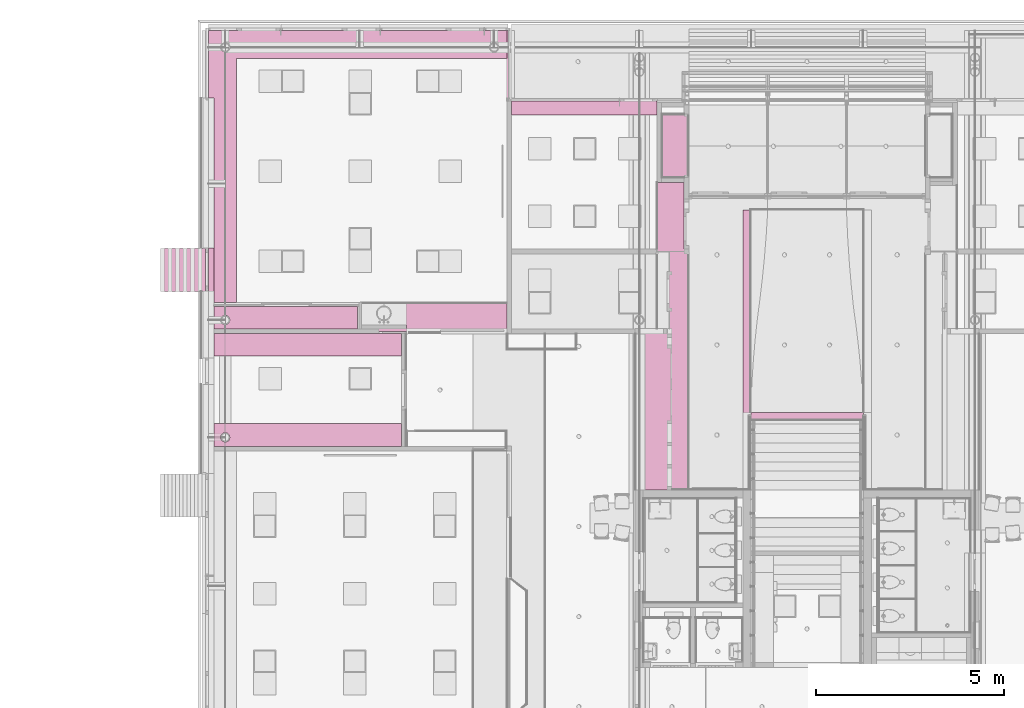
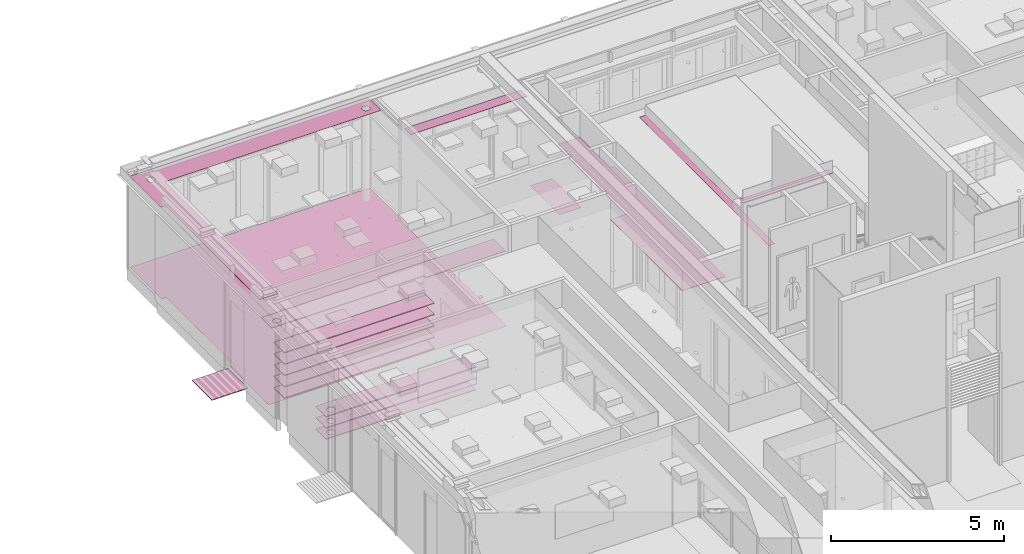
# One storey, part 326 of 347: 18 furnishings.
"""IFC2X3 building model written with IfcOpenShell, lengths in millimetres."""

import ifcopenshell
import ifcopenshell.guid

model = None  # the IFC model being written
_history = None  # IfcOwnerHistory: only IFC2X3 demands one
_inside = {}  # id of a spatial element -> (the spatial element, [elements in it])
_under = {}  # id of a project, library or spatial element -> (it, [spatial elements below it])
_declared = {}  # id of a project -> (the project, [libraries it declares])
_typed = {}  # id of a type object -> (the type object, [elements of that type])
_made_of = {}  # id of a material, layer set ... -> (it, [elements and type objects made of it])


def new_model(schema):
    """Start an empty IFC model of exactly this schema.

    Asked for "IFC4X3", IfcOpenShell would pick the latest addendum, in which some entities
    have other attributes; the version numbers below select the first issue.
    IFC2X3 requires an IfcOwnerHistory on every rooted entity: one is made here for all.
    """
    global model, _history
    if schema == "IFC4X3":
        model = ifcopenshell.file(schema_version=(4, 3, 0, 0))
    else:
        model = ifcopenshell.file(schema=schema)
    _inside.clear()
    _under.clear()
    _declared.clear()
    _typed.clear()
    _made_of.clear()
    _history = None
    if model.schema == "IFC2X3":
        org = make("IfcOrganization", Name="unknown")
        user = make(
            "IfcPersonAndOrganization",
            ThePerson=make("IfcPerson", FamilyName="unknown"),
            TheOrganization=org,
        )
        app = make(
            "IfcApplication",
            ApplicationDeveloper=org,
            Version="unknown",
            ApplicationFullName="unknown",
            ApplicationIdentifier="unknown",
        )
        _history = make(
            "IfcOwnerHistory",
            OwningUser=user,
            OwningApplication=app,
            ChangeAction="ADDED",
            CreationDate=0,
        )
    return model


def make(cls, **values):
    """One entity of the class cls with the attributes given. An attribute that is None is left unset."""
    return model.create_entity(
        cls, **{name: value for name, value in values.items() if value is not None}
    )


def entity(cls, *values):
    """Any entity or typed value of the class cls, its attributes in the order of the schema. None: left unset."""
    e = model.create_entity(cls)
    for i, value in enumerate(values):
        if value is not None:
            e[i] = value
    return e


def rooted(cls, **values):
    """An entity with a GlobalId (a new one), such as an element, a storey or a relation."""
    return make(cls, GlobalId=ifcopenshell.guid.new(), OwnerHistory=_history, **values)


def si_unit(unit_type, name, prefix=None):
    """IfcSIUnit, for example si_unit("LENGTHUNIT", "METRE", prefix="MILLI")."""
    return make("IfcSIUnit", UnitType=unit_type, Prefix=prefix, Name=name)


def converted_unit(unit_type, name, factor, base, dimensions=None, offset=None):
    """IfcConversionBasedUnit, such as the inch: factor (a typed value) times the base unit."""
    return make(
        "IfcConversionBasedUnit"
        if offset is None
        else "IfcConversionBasedUnitWithOffset",
        ConversionOffset=offset,
        Dimensions=None
        if dimensions is None
        else entity("IfcDimensionalExponents", *dimensions),
        UnitType=unit_type,
        Name=name,
        ConversionFactor=make(
            "IfcMeasureWithUnit", ValueComponent=factor, UnitComponent=base
        ),
    )


def derived_unit(unit_type, elements):
    """IfcDerivedUnit: a product of units, each with its exponent."""
    return make(
        "IfcDerivedUnit",
        Elements=[
            make("IfcDerivedUnitElement", Unit=unit, Exponent=power)
            for unit, power in elements
        ],
        UnitType=unit_type,
    )


def money_unit(currency):
    """IfcMonetaryUnit."""
    return make("IfcMonetaryUnit", Currency=currency)


def assignment(units):
    """IfcUnitAssignment: the units of a project."""
    return None if units is None else make("IfcUnitAssignment", Units=units)


def point(xyz):
    """IfcCartesianPoint."""
    return None if xyz is None else make("IfcCartesianPoint", Coordinates=xyz)


def direction(xyz):
    """IfcDirection."""
    return None if xyz is None else make("IfcDirection", DirectionRatios=xyz)


def frame(location, z_axis=None, x_axis=None):
    """IfcAxis2Placement3D, a coordinate frame: its origin and axes. An axis left out is left unset."""
    return make(
        "IfcAxis2Placement3D",
        Location=point(location),
        Axis=direction(z_axis),
        RefDirection=direction(x_axis),
    )


def origin_with_axes():
    """The frame at (0, 0, 0) with the z axis (0, 0, 1) and the x axis (1, 0, 0) written out."""
    return frame((0.0, 0.0, 0.0), z_axis=(0.0, 0.0, 1.0), x_axis=(1.0, 0.0, 0.0))


def place(relative_to, where):
    """IfcLocalPlacement: puts the frame where relative to a parent placement (None: the world)."""
    return make(
        "IfcLocalPlacement", PlacementRelTo=relative_to, RelativePlacement=where
    )


def context(
    kind, dimensions, precision=None, world=None, true_north=None, identifier=None
):
    """IfcGeometricRepresentationContext, for example the 3D "Model" context."""
    return make(
        "IfcGeometricRepresentationContext",
        ContextIdentifier=identifier,
        ContextType=kind,
        CoordinateSpaceDimension=dimensions,
        Precision=precision,
        WorldCoordinateSystem=world,
        TrueNorth=true_north,
    )


def subcontext(parent, identifier, kind, view, scale=None):
    """IfcGeometricRepresentationSubContext, for example "Body" below "Model"."""
    return make(
        "IfcGeometricRepresentationSubContext",
        ContextIdentifier=identifier,
        ContextType=kind,
        ParentContext=parent,
        TargetScale=scale,
        TargetView=view,
    )


def project(units=None, contexts=None):
    """IfcProject with its units and contexts."""
    return rooted(
        "IfcProject",
        Name="project",
        RepresentationContexts=contexts,
        UnitsInContext=assignment(units),
    )


def spatial(cls, under=None, at=None, **own):
    """A site, building, storey or space (cls), placed at a placement, below another one or the project."""
    s = rooted(cls, ObjectPlacement=at, **own)
    if under is not None:
        _under.setdefault(under.id(), (under, []))[1].append(s)
    return s


def faces_of(points, faces, orient=None, outer=None):
    """IfcFace entities. A face is a list of loops; a loop is a list of indices into points, from 0.

    orient and outer hold one flag for each loop. By default every Orientation is true, the
    first loop of a face is its IfcFaceOuterBound and the others are IfcFaceBound.
    """
    made = []
    for i, loops in enumerate(faces):
        bounds = []
        for j, loop in enumerate(loops):
            is_outer = j == 0 if outer is None else outer[i][j]
            bounds.append(
                make(
                    "IfcFaceOuterBound" if is_outer else "IfcFaceBound",
                    Bound=make("IfcPolyLoop", Polygon=[points[k] for k in loop]),
                    Orientation=True if orient is None else orient[i][j],
                )
            )
        made.append(make("IfcFace", Bounds=bounds))
    return made


def faceted_brep(points, faces, orient=None, outer=None, voids=None):
    """IfcFacetedBrep: a solid bounded by flat faces; with voids (closed shells), ...WithVoids."""
    shared = [point(p) for p in points]
    hull = make("IfcClosedShell", CfsFaces=faces_of(shared, faces, orient, outer))
    if voids is None:
        return make("IfcFacetedBrep", Outer=hull)
    return make(
        "IfcFacetedBrepWithVoids",
        Outer=hull,
        Voids=[
            make(cls, CfsFaces=faces_of(shared, fs, o, b)) for cls, fs, o, b in voids
        ],
    )


def shape(context_of_items, identifier, shape_type, items):
    """IfcShapeRepresentation: the items that make up one representation, for example the "Body"."""
    return make(
        "IfcShapeRepresentation",
        ContextOfItems=context_of_items,
        RepresentationIdentifier=identifier,
        RepresentationType=shape_type,
        Items=items,
    )


def material(Name=None, Category=None):
    """IfcMaterial."""
    return make("IfcMaterial", Name=Name, Category=Category)


def made_of(thing, what):
    """Note that an element or type object is made of a material, layer set ...; save() writes the relation."""
    if what is not None:
        _made_of.setdefault(what.id(), (what, []))[1].append(thing)
    return thing


def type_object(cls, material=None, **own):
    """A type object (cls), such as IfcWallType, which elements share."""
    return made_of(rooted(cls, **own), material)


def element(
    cls,
    number,
    at=None,
    inside=None,
    cuts=None,
    type_object=None,
    material=None,
    context=None,
    identifier="Body",
    shape_type=None,
    held_by="IfcProductDefinitionShape",
    body=None,
    shapes=None,
    **own,
):
    """One element of the class cls, such as IfcWall. Its Tag is "e" and its number.

    at: its placement. inside: the storey or other place that contains it. cuts: it is an
    opening in that element (IfcRelVoidsElement). A single representation is given by context,
    identifier, shape_type and body (its items); several are given by shapes. held_by: the class
    of the entity that holds the representations. save() writes the other relations.
    """
    e = rooted(cls, Tag="e%d" % number, ObjectPlacement=at, **own)
    if body is not None:
        shapes = [shape(context, identifier, shape_type, body)]
    if shapes is not None:
        e.Representation = make(held_by, Representations=shapes)
    if inside is not None:
        _inside.setdefault(inside.id(), (inside, []))[1].append(e)
    if cuts is not None:
        rooted(
            "IfcRelVoidsElement", RelatingBuildingElement=cuts, RelatedOpeningElement=e
        )
    if type_object is not None:
        _typed.setdefault(type_object.id(), (type_object, []))[1].append(e)
    return made_of(e, material)


def aggregate(whole, parts):
    """IfcRelAggregates: a whole, such as a stair, and the parts it consists of."""
    return rooted("IfcRelAggregates", RelatingObject=whole, RelatedObjects=parts)


def save(model, path):
    """Write the relations noted so far, then the file.

    IfcRelAggregates (storeys below a building ...), IfcRelContainedInSpatialStructure (elements
    in a storey), IfcRelDefinesByType, IfcRelAssociatesMaterial and IfcRelDeclares: one each for
    every whole, place, type object, material and project.
    """
    for whole, parts in _under.values():
        aggregate(whole, parts)
    for where, things in _inside.values():
        rooted(
            "IfcRelContainedInSpatialStructure",
            RelatedElements=things,
            RelatingStructure=where,
        )
    for kind, things in _typed.values():
        rooted("IfcRelDefinesByType", RelatedObjects=things, RelatingType=kind)
    for what, things in _made_of.values():
        rooted("IfcRelAssociatesMaterial", RelatedObjects=things, RelatingMaterial=what)
    for by, libraries in _declared.values():
        rooted("IfcRelDeclares", RelatingContext=by, RelatedDefinitions=libraries)
    model.write(path)


model = new_model("IFC2X3")

# Units and contexts
model_context = context("Model", 3, precision=0.01, world=origin_with_axes(), true_north=direction((0.0, 1.0)))
plan_context = context("Plan", 3, precision=0.01, world=origin_with_axes(), true_north=direction((0.0, 1.0)))
body_context = subcontext(model_context, "Body", "Model", "MODEL_VIEW")
ifc_project = project(units=[si_unit("LENGTHUNIT", "METRE", prefix="MILLI"), si_unit("AREAUNIT", "SQUARE_METRE"), si_unit("VOLUMEUNIT", "CUBIC_METRE"), converted_unit("PLANEANGLEUNIT", "DEGREE", entity("IfcPlaneAngleMeasure", 0.0174532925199), si_unit("PLANEANGLEUNIT", "RADIAN"), dimensions=[0, 0, 0, 0, 0, 0, 0]), money_unit("EUR"), converted_unit("TIMEUNIT", "Year", entity("IfcTimeMeasure", 31556926.0), si_unit("TIMEUNIT", "SECOND"), dimensions=[0, 0, 1, 0, 0, 0, 0]), si_unit("MASSUNIT", "GRAM", prefix="KILO"), si_unit("THERMODYNAMICTEMPERATUREUNIT", "DEGREE_CELSIUS"), si_unit("LUMINOUSINTENSITYUNIT", "LUMEN"), si_unit("ENERGYUNIT", "JOULE", prefix="MEGA"), derived_unit("THERMALCONDUCTANCEUNIT", [(si_unit("POWERUNIT", "WATT"), 1), (si_unit("LENGTHUNIT", "METRE"), -1), (si_unit("THERMODYNAMICTEMPERATUREUNIT", "KELVIN"), -1)]), derived_unit("SPECIFICHEATCAPACITYUNIT", [(si_unit("ENERGYUNIT", "JOULE"), 1), (si_unit("MASSUNIT", "GRAM", prefix="KILO"), -1), (si_unit("THERMODYNAMICTEMPERATUREUNIT", "KELVIN"), -1)]), derived_unit("MASSDENSITYUNIT", [(si_unit("MASSUNIT", "GRAM", prefix="KILO"), 1), (si_unit("VOLUMEUNIT", "CUBIC_METRE"), -1)])], contexts=[model_context, plan_context])

# Site, building, storey
site_placement = place(None, origin_with_axes())
site = spatial("IfcSite", under=ifc_project, at=site_placement, Name="Site", CompositionType="ELEMENT")
building_placement = place(site_placement, origin_with_axes())
building = spatial("IfcBuilding", under=site, at=building_placement, Name="Naam gebouw", CompositionType="ELEMENT")
storey_placement = place(building_placement, origin_with_axes())
storey = spatial("IfcBuildingStorey", under=building, at=storey_placement, Name="begane grond", CompositionType="ELEMENT", Elevation=0.0)

# Furnishings
ifc_material_1 = material(Name="ALG - LICHTE SCHEIDINGSWAND")
furniture_type_1 = type_object("IfcFurnitureType", Name="44 koof plaf 50", AssemblyPlace="NOTDEFINED")
furnishing_1_placement = place(storey_placement, frame((38575.0, 36862.4999592, 3500.0), z_axis=(0.0, 0.0, 1.0), x_axis=(1.0, 0.0, 0.0)))
element("IfcFurnishingElement", 1, at=furnishing_1_placement, inside=storey, type_object=furniture_type_1, material=ifc_material_1, Name="72_75 vaste inrichting", ObjectType="SHELF", context=body_context, shape_type="Brep", body=[
    faceted_brep([(0.0, 0.0, 12.0), (0.0, 0.0, 0.0), (0.0, -209.99995569, 0.0), (0.0, -209.99995569, 12.0), (3000.0, 8.94070595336e-05, 12.0), (3000.0, 8.94070595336e-05, 0.0), (3000.0, -209.99995569, 0.0), (3000.0, -209.99995569, 12.0)], [[[0, 1, 2, 3]], [[4, 5, 1, 0]], [[2, 1, 5, 6]], [[3, 2, 6, 7]], [[4, 0, 3, 7]], [[7, 6, 5, 4]]]),
])
furnishing_2_placement = place(storey_placement, frame((24125.0, 45210.0068337, 3200.0), z_axis=(0.0, 0.0, 1.0), x_axis=(1.0, 0.0, 0.0)))
element("IfcFurnishingElement", 2, at=furnishing_2_placement, inside=storey, type_object=furniture_type_1, material=ifc_material_1, Name="72_75 vaste inrichting", ObjectType="SHELF", context=body_context, shape_type="Brep", body=[
    faceted_brep([(150.000026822, -5422.50683374, 0.0), (150.000008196, 0.0, 0.0), (150.000008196, 24.9931662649, 0.0), (0.0, 24.9931662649, 0.0), (0.0, 1826.99313354, 0.0), (7950.0, 1826.99313354, 0.0), (7950.0, 1076.99311789, 0.0), (750.000015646, 1076.99311789, 0.0), (750.000015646, -5422.50683374, 0.0), (7708.07889873, 1300.77151549, 0.0), (7722.6434441, 1323.95085666, 0.0), (7731.68493726, 1349.78995959, 0.0), (7734.75, 1376.99314376, 0.0), (7731.68493726, 1404.19632794, 0.0), (7722.6434441, 1430.03543087, 0.0), (7708.07889873, 1453.21477204, 0.0), (7688.72162828, 1472.5720425, 0.0), (7665.54228711, 1487.13658787, 0.0), (7639.70318418, 1496.17808103, 0.0), (7612.5, 1499.24314376, 0.0), (7585.29681582, 1496.17808103, 0.0), (7559.45771289, 1487.13658787, 0.0), (7536.27837172, 1472.5720425, 0.0), (7516.92110127, 1453.21477204, 0.0), (7502.3565559, 1430.03543087, 0.0), (7493.31506274, 1404.19632794, 0.0), (7490.25, 1376.99314376, 0.0), (7493.31506274, 1349.78995959, 0.0), (7502.3565559, 1323.95085666, 0.0), (7516.92110127, 1300.77151549, 0.0), (7536.27837172, 1281.41424503, 0.0), (7559.45771289, 1266.84969966, 0.0), (7585.29681582, 1257.8082065, 0.0), (7612.5, 1254.74314376, 0.0), (7639.70318418, 1257.8082065, 0.0), (7665.54228711, 1266.84969966, 0.0), (7688.72162828, 1281.41424503, 0.0), (545.578898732, 1300.77151549, 0.0), (560.143444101, 1323.95085666, 0.0), (569.184937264, 1349.78995959, 0.0), (572.25, 1376.99314376, 0.0), (569.184937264, 1404.19632794, 0.0), (560.143444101, 1430.03543087, 0.0), (545.578898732, 1453.21477204, 0.0), (526.221628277, 1472.5720425, 0.0), (503.042287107, 1487.13658787, 0.0), (477.203184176, 1496.17808103, 0.0), (450.0, 1499.24314376, 0.0), (422.796815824, 1496.17808103, 0.0), (396.957712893, 1487.13658787, 0.0), (373.778371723, 1472.5720425, 0.0), (354.421101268, 1453.21477204, 0.0), (339.856555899, 1430.03543087, 0.0), (330.815062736, 1404.19632794, 0.0), (327.75, 1376.99314376, 0.0), (330.815062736, 1349.78995959, 0.0), (339.856555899, 1323.95085666, 0.0), (354.421101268, 1300.77151549, 0.0), (373.778371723, 1281.41424503, 0.0), (396.957712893, 1266.84969966, 0.0), (422.796815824, 1257.8082065, 0.0), (450.0, 1254.74314376, 0.0), (477.203184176, 1257.8082065, 0.0), (503.042287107, 1266.84969966, 0.0), (526.221628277, 1281.41424503, 0.0), (150.000026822, -5422.50683374, 12.0), (150.000008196, 0.0, 12.0), (150.000008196, 24.9931662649, 12.0), (7.50027595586e-07, 24.9931662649, 12.0), (0.0, 1826.99313354, 12.0), (7950.0, 1826.99313354, 12.0), (7950.0, 1076.99311789, 12.0), (750.000015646, 1076.99311789, 12.0), (750.000015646, -5422.50683374, 12.0), (7708.07889873, 1300.77151549, 12.0), (7722.6434441, 1323.95085666, 12.0), (7731.68493726, 1349.78995959, 12.0), (7734.75, 1376.99314376, 12.0), (7731.68493726, 1404.19632794, 12.0), (7722.6434441, 1430.03543087, 12.0), (7708.07889873, 1453.21477204, 12.0), (7688.72162828, 1472.5720425, 12.0), (7665.54228711, 1487.13658787, 12.0), (7639.70318418, 1496.17808103, 12.0), (7612.5, 1499.24314376, 12.0), (7585.29681582, 1496.17808103, 12.0), (7559.45771289, 1487.13658787, 12.0), (7536.27837172, 1472.5720425, 12.0), (7516.92110127, 1453.21477204, 12.0), (7502.3565559, 1430.03543087, 12.0), (7493.31506274, 1404.19632794, 12.0), (7490.25, 1376.99314376, 12.0), (7493.31506274, 1349.78995959, 12.0), (7502.3565559, 1323.95085666, 12.0), (7516.92110127, 1300.77151549, 12.0), (7536.27837172, 1281.41424503, 12.0), (7559.45771289, 1266.84969966, 12.0), (7585.29681582, 1257.8082065, 12.0), (7612.5, 1254.74314376, 12.0), (7639.70318418, 1257.8082065, 12.0), (7665.54228711, 1266.84969966, 12.0), (7688.72162828, 1281.41424503, 12.0), (545.578898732, 1300.77151549, 12.0), (560.143444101, 1323.95085666, 12.0), (569.184937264, 1349.78995959, 12.0), (572.25, 1376.99314376, 12.0), (569.184937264, 1404.19632794, 12.0), (560.143444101, 1430.03543087, 12.0), (545.578898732, 1453.21477204, 12.0), (526.221628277, 1472.5720425, 12.0), (503.042287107, 1487.13658787, 12.0), (477.203184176, 1496.17808103, 12.0), (450.0, 1499.24314376, 12.0), (422.796815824, 1496.17808103, 12.0), (396.957712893, 1487.13658787, 12.0), (373.778371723, 1472.5720425, 12.0), (354.421101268, 1453.21477204, 12.0), (339.856555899, 1430.03543087, 12.0), (330.815062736, 1404.19632794, 12.0), (327.75, 1376.99314376, 12.0), (330.815062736, 1349.78995959, 12.0), (339.856555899, 1323.95085666, 12.0), (354.421101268, 1300.77151549, 12.0), (373.778371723, 1281.41424503, 12.0), (396.957712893, 1266.84969966, 12.0), (422.796815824, 1257.8082065, 12.0), (450.0, 1254.74314376, 12.0), (477.203184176, 1257.8082065, 12.0), (503.042287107, 1266.84969966, 12.0), (526.221628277, 1281.41424503, 12.0)], [[[0, 1, 2, 3, 4, 5, 6, 7, 8], [9, 10, 11, 12, 13, 14, 15, 16, 17, 18, 19, 20, 21, 22, 23, 24, 25, 26, 27, 28, 29, 30, 31, 32, 33, 34, 35, 36], [37, 38, 39, 40, 41, 42, 43, 44, 45, 46, 47, 48, 49, 50, 51, 52, 53, 54, 55, 56, 57, 58, 59, 60, 61, 62, 63, 64]], [[0, 65, 66, 1]], [[2, 1, 66, 67]], [[3, 2, 67, 68]], [[69, 4, 3, 68]], [[70, 5, 4, 69]], [[71, 6, 5, 70]], [[72, 7, 6, 71]], [[73, 8, 7, 72]], [[65, 0, 8, 73]], [[9, 74, 75, 10]], [[10, 75, 76, 11]], [[11, 76, 77, 12]], [[12, 77, 78, 13]], [[13, 78, 79, 14]], [[14, 79, 80, 15]], [[15, 80, 81, 16]], [[16, 81, 82, 17]], [[17, 82, 83, 18]], [[18, 83, 84, 19]], [[19, 84, 85, 20]], [[20, 85, 86, 21]], [[21, 86, 87, 22]], [[22, 87, 88, 23]], [[23, 88, 89, 24]], [[24, 89, 90, 25]], [[25, 90, 91, 26]], [[26, 91, 92, 27]], [[27, 92, 93, 28]], [[28, 93, 94, 29]], [[29, 94, 95, 30]], [[30, 95, 96, 31]], [[31, 96, 97, 32]], [[32, 97, 98, 33]], [[33, 98, 99, 34]], [[34, 99, 100, 35]], [[35, 100, 101, 36]], [[36, 101, 74, 9]], [[37, 102, 103, 38]], [[38, 103, 104, 39]], [[39, 104, 105, 40]], [[40, 105, 106, 41]], [[41, 106, 107, 42]], [[42, 107, 108, 43]], [[43, 108, 109, 44]], [[44, 109, 110, 45]], [[45, 110, 111, 46]], [[46, 111, 112, 47]], [[47, 112, 113, 48]], [[48, 113, 114, 49]], [[49, 114, 115, 50]], [[50, 115, 116, 51]], [[51, 116, 117, 52]], [[52, 117, 118, 53]], [[53, 118, 119, 54]], [[54, 119, 120, 55]], [[55, 120, 121, 56]], [[56, 121, 122, 57]], [[57, 122, 123, 58]], [[58, 123, 124, 59]], [[59, 124, 125, 60]], [[60, 125, 126, 61]], [[61, 126, 127, 62]], [[62, 127, 128, 63]], [[63, 128, 129, 64]], [[64, 129, 102, 37]], [[69, 68, 67, 66, 65, 73, 72, 71, 70], [80, 79, 78, 77, 76, 75, 74, 101, 100, 99, 98, 97, 96, 95, 94, 93, 92, 91, 90, 89, 88, 87, 86, 85, 84, 83, 82, 81], [108, 107, 106, 105, 104, 103, 102, 129, 128, 127, 126, 125, 124, 123, 122, 121, 120, 119, 118, 117, 116, 115, 114, 113, 112, 111, 110, 109]]]),
])
furnishing_3_placement = place(storey_placement, frame((38366.0000534, 34800.0, 3190.0), z_axis=(0.0, 0.0, 1.0), x_axis=(1.0, 0.0, 0.0)))
element("IfcFurnishingElement", 3, at=furnishing_3_placement, inside=storey, type_object=furniture_type_1, material=ifc_material_1, Name="72_75 vaste inrichting", ObjectType="SHELF", context=body_context, shape_type="Brep", body=[
    faceted_brep([(0.0, 0.0, 12.0), (0.0, 0.0, 0.0), (208.999996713, 0.0, 0.0), (208.999996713, 0.0, 12.0), (0.0, 7462.50004224, 12.0), (0.0, 7462.50004224, 0.0), (208.999996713, 7462.50004224, 0.0), (208.999996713, 7462.50004224, 12.0)], [[[0, 1, 2, 3]], [[4, 5, 1, 0]], [[2, 1, 5, 6]], [[3, 2, 6, 7]], [[4, 0, 3, 7]], [[7, 6, 5, 4]]]),
])
furnishing_4_placement = place(storey_placement, frame((35495.0, 34800.0, 2600.0), z_axis=(0.0, 0.0, 1.0), x_axis=(1.0, 0.0, 0.0)))
element("IfcFurnishingElement", 4, at=furnishing_4_placement, inside=storey, type_object=furniture_type_1, material=ifc_material_1, Name="72_75 vaste inrichting", ObjectType="SHELF", context=body_context, shape_type="Brep", body=[
    faceted_brep([(0.0, 0.0, 12.0), (0.0, 0.0, 0.0), (1429.99997328, 0.0, 0.0), (1429.99997328, 0.0, 12.0), (0.0, 4162.49958894, 12.0), (0.0, 4162.49958894, 0.0), (579.999557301, 4162.4994669, 0.0), (580.000045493, 8190.5, 0.0), (1305.00004134, 8190.5, 0.0), (1305.00004134, 6412.4999506, 0.0), (1429.99997328, 6412.4999506, 0.0), (1429.99997328, 6412.4999506, 12.0), (1305.00004134, 6412.4999506, 12.0), (1305.00004134, 8190.5, 12.0), (580.000045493, 8190.5, 12.0), (579.999557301, 4162.4994669, 12.0)], [[[0, 1, 2, 3]], [[4, 5, 1, 0]], [[2, 1, 5, 6, 7, 8, 9, 10]], [[3, 2, 10, 11]], [[4, 0, 3, 11, 12, 13, 14, 15]], [[15, 6, 5, 4]], [[14, 7, 6, 15]], [[13, 8, 7, 14]], [[12, 9, 8, 13]], [[11, 10, 9, 12]]]),
])
furnishing_5_placement = place(storey_placement, frame((32200.0032564, 44791.0, 3200.0), z_axis=(0.0, 0.0, 1.0), x_axis=(1.0, 0.0, 0.0)))
element("IfcFurnishingElement", 5, at=furnishing_5_placement, inside=storey, type_object=furniture_type_1, material=ifc_material_1, Name="72_75 vaste inrichting", ObjectType="SHELF", context=body_context, shape_type="Brep", body=[
    faceted_brep([(3874.99674359, 0.0, 12.0), (0.0, 0.0, 12.0), (0.0, 0.0, 0.0), (3874.99674359, 0.0, 0.0), (3874.99674359, 362.0, 12.0), (0.0, 362.0, 12.0), (0.0, 362.0, 0.0), (3874.99674359, 362.0, 0.0)], [[[0, 1, 2, 3]], [[4, 5, 1, 0]], [[1, 5, 6, 2]], [[7, 3, 2, 6]], [[4, 0, 3, 7]], [[5, 4, 7, 6]]]),
])
furnishing_6_placement = place(storey_placement, frame((28200.0, 39187.5, 2600.0), z_axis=(0.0, 0.0, 1.0), x_axis=(1.0, 0.0, 0.0)))
element("IfcFurnishingElement", 6, at=furnishing_6_placement, inside=storey, type_object=furniture_type_1, material=ifc_material_1, Name="72_75 vaste inrichting", ObjectType="SHELF", context=body_context, shape_type="Brep", body=[
    faceted_brep([(0.0, 0.0, 12.0), (0.0, 0.0, 0.0), (1200.0, 0.0, 0.0), (1200.0, 0.0, 12.0), (0.0, 600.0, 12.0), (0.0, 600.0, 0.0), (3875.0, 600.0, 0.0), (3875.0, -100.0, 0.0), (1200.0, -100.0, 0.0), (1200.0, -100.0, 12.0), (3875.0, -100.0, 12.0), (3875.0, 600.0, 12.0)], [[[0, 1, 2, 3]], [[4, 5, 1, 0]], [[2, 1, 5, 6, 7, 8]], [[3, 2, 8, 9]], [[4, 0, 3, 9, 10, 11]], [[11, 6, 5, 4]], [[10, 7, 6, 11]], [[9, 8, 7, 10]]]),
])
furnishing_7_placement = place(storey_placement, frame((24275.0000082, 39087.5, 2622.0), z_axis=(0.0, 0.0, 1.0), x_axis=(1.0, 0.0, 0.0)))
element("IfcFurnishingElement", 7, at=furnishing_7_placement, inside=storey, type_object=furniture_type_1, material=ifc_material_1, Name="72_77 vaste inrichting", ObjectType="SHELF", context=body_context, shape_type="Brep", body=[
    faceted_brep([(3824.9999918, 600.0, 0.0), (3824.9999918, 0.0, 0.0), (0.0, 0.0, 0.0), (0.0, 600.0, 0.0), (395.578890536, 161.278371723, 0.0), (410.143435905, 184.457712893, 0.0), (419.184929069, 210.296815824, 0.0), (422.249991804, 237.5, 0.0), (419.184929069, 264.703184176, 0.0), (410.143435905, 290.542287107, 0.0), (395.578890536, 313.721628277, 0.0), (376.221620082, 333.078898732, 0.0), (353.042278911, 347.643444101, 0.0), (327.20317598, 356.684937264, 0.0), (299.999991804, 359.75, 0.0), (272.796807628, 356.684937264, 0.0), (246.957704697, 347.643444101, 0.0), (223.778363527, 333.078898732, 0.0), (204.421093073, 313.721628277, 0.0), (189.856547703, 290.542287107, 0.0), (180.81505454, 264.703184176, 0.0), (177.749991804, 237.5, 0.0), (180.81505454, 210.296815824, 0.0), (189.856547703, 184.457712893, 0.0), (204.421093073, 161.278371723, 0.0), (223.778363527, 141.921101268, 0.0), (246.957704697, 127.356555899, 0.0), (272.796807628, 118.315062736, 0.0), (299.999991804, 115.25, 0.0), (327.20317598, 118.315062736, 0.0), (353.042278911, 127.356555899, 0.0), (376.221620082, 141.921101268, 0.0), (3824.9999918, 600.0, 12.0), (3824.9999918, 0.0, 12.0), (0.0, 0.0, 12.0), (0.0, 600.0, 12.0), (395.578890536, 161.278371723, 12.0), (410.143435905, 184.457712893, 12.0), (419.184929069, 210.296815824, 12.0), (422.249991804, 237.5, 12.0), (419.184929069, 264.703184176, 12.0), (410.143435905, 290.542287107, 12.0), (395.578890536, 313.721628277, 12.0), (376.221620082, 333.078898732, 12.0), (353.042278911, 347.643444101, 12.0), (327.20317598, 356.684937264, 12.0), (299.999991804, 359.75, 12.0), (272.796807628, 356.684937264, 12.0), (246.957704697, 347.643444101, 12.0), (223.778363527, 333.078898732, 12.0), (204.421093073, 313.721628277, 12.0), (189.856547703, 290.542287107, 12.0), (180.81505454, 264.703184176, 12.0), (177.749991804, 237.5, 12.0), (180.81505454, 210.296815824, 12.0), (189.856547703, 184.457712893, 12.0), (204.421093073, 161.278371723, 12.0), (223.778363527, 141.921101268, 12.0), (246.957704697, 127.356555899, 12.0), (272.796807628, 118.315062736, 12.0), (299.999991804, 115.25, 12.0), (327.20317598, 118.315062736, 12.0), (353.042278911, 127.356555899, 12.0), (376.221620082, 141.921101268, 12.0)], [[[0, 1, 2, 3], [4, 5, 6, 7, 8, 9, 10, 11, 12, 13, 14, 15, 16, 17, 18, 19, 20, 21, 22, 23, 24, 25, 26, 27, 28, 29, 30, 31]], [[32, 33, 1, 0]], [[33, 34, 2, 1]], [[34, 35, 3, 2]], [[35, 32, 0, 3]], [[4, 36, 37, 5]], [[5, 37, 38, 6]], [[6, 38, 39, 7]], [[7, 39, 40, 8]], [[8, 40, 41, 9]], [[9, 41, 42, 10]], [[10, 42, 43, 11]], [[11, 43, 44, 12]], [[12, 44, 45, 13]], [[13, 45, 46, 14]], [[14, 46, 47, 15]], [[15, 47, 48, 16]], [[16, 48, 49, 17]], [[17, 49, 50, 18]], [[18, 50, 51, 19]], [[19, 51, 52, 20]], [[20, 52, 53, 21]], [[21, 53, 54, 22]], [[22, 54, 55, 23]], [[23, 55, 56, 24]], [[24, 56, 57, 25]], [[25, 57, 58, 26]], [[26, 58, 59, 27]], [[27, 59, 60, 28]], [[28, 60, 61, 29]], [[29, 61, 62, 30]], [[30, 62, 63, 31]], [[31, 63, 36, 4]], [[32, 35, 34, 33], [42, 41, 40, 39, 38, 37, 36, 63, 62, 61, 60, 59, 58, 57, 56, 55, 54, 53, 52, 51, 50, 49, 48, 47, 46, 45, 44, 43]]]),
])
ifc_material_2 = material(Name="Hout - Spaanplaat")
furniture_type_2 = type_object("IfcFurnitureType", Name="Hout - Spaanplaat 20", AssemblyPlace="NOTDEFINED")
for number, where, z_axis, x_axis, name in (
    (8, (24275.0, 38362.5, 2200.0), (0.0, 0.0, 1.0), (1.0, 0.0, 0.0), "72_72 vaste inrichting"),
    (9, (24275.0, 38362.5, 1400.0), (0.0, 0.0, 1.0), (1.0, 0.0, 0.0), "72_72 vaste inrichting"),
    (10, (24275.0, 38362.5, 600.0), (0.0, 0.0, 1.0), (1.0, 0.0, 0.0), "72_72 vaste inrichting"),
):
    element("IfcFurnishingElement", number, at=place(storey_placement, frame(where, z_axis=z_axis, x_axis=x_axis)), inside=storey, type_object=furniture_type_2, material=ifc_material_2, Name=name, ObjectType="SHELF", context=body_context, shape_type="Brep", body=[
        faceted_brep([(0.0, 0.0, 0.0), (0.0, 0.0, -20.0), (5000.0, 0.0, -20.0), (5000.0, 0.0, 0.0), (0.0, 600.0, 0.0), (0.0, 600.0, -20.0), (5000.0, 600.0, -20.0), (5000.0, 600.0, 0.0)], [[[0, 1, 2, 3]], [[4, 5, 1, 0]], [[2, 1, 5, 6]], [[3, 2, 6, 7]], [[4, 0, 3, 7]], [[7, 6, 5, 4]]]),
    ])
furnishing_8_placement = place(storey_placement, frame((24275.0, 35962.5, 1000.0), z_axis=(0.0, 0.0, 1.0), x_axis=(1.0, 0.0, 0.0)))
element("IfcFurnishingElement", 11, at=furnishing_8_placement, inside=storey, type_object=furniture_type_2, material=ifc_material_2, Name="72_73 vaste inrichting", ObjectType="SHELF", context=body_context, shape_type="Brep", body=[
    faceted_brep([(5000.0, 600.0, -20.0), (5000.0, 0.0, -20.0), (0.0, 0.0, -20.0), (0.0, 600.0, -20.0), (395.578898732, 161.278371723, -20.0), (410.143444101, 184.457712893, -20.0), (419.184937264, 210.296815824, -20.0), (422.25, 237.5, -20.0), (419.184937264, 264.703184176, -20.0), (410.143444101, 290.542287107, -20.0), (395.578898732, 313.721628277, -20.0), (376.221628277, 333.078898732, -20.0), (353.042287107, 347.643444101, -20.0), (327.203184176, 356.684937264, -20.0), (300.0, 359.75, -20.0), (272.796815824, 356.684937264, -20.0), (246.957712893, 347.643444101, -20.0), (223.778371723, 333.078898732, -20.0), (204.421101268, 313.721628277, -20.0), (189.856555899, 290.542287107, -20.0), (180.815062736, 264.703184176, -20.0), (177.75, 237.5, -20.0), (180.815062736, 210.296815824, -20.0), (189.856555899, 184.457712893, -20.0), (204.421101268, 161.278371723, -20.0), (223.778371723, 141.921101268, -20.0), (246.957712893, 127.356555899, -20.0), (272.796815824, 118.315062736, -20.0), (300.0, 115.25, -20.0), (327.203184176, 118.315062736, -20.0), (353.042287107, 127.356555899, -20.0), (376.221628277, 141.921101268, -20.0), (5000.0, 600.0, 0.0), (5000.0, 0.0, 0.0), (0.0, 0.0, 0.0), (0.0, 600.0, 0.0), (395.578898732, 161.278371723, 0.0), (410.143444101, 184.457712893, 0.0), (419.184937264, 210.296815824, 0.0), (422.25, 237.5, 0.0), (419.184937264, 264.703184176, 0.0), (410.143444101, 290.542287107, 0.0), (395.578898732, 313.721628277, 0.0), (376.221628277, 333.078898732, 0.0), (353.042287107, 347.643444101, 0.0), (327.203184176, 356.684937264, 0.0), (300.0, 359.75, 0.0), (272.796815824, 356.684937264, 0.0), (246.957712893, 347.643444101, 0.0), (223.778371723, 333.078898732, 0.0), (204.421101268, 313.721628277, 0.0), (189.856555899, 290.542287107, 0.0), (180.815062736, 264.703184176, 0.0), (177.75, 237.5, 0.0), (180.815062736, 210.296815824, 0.0), (189.856555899, 184.457712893, 0.0), (204.421101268, 161.278371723, 0.0), (223.778371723, 141.921101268, 0.0), (246.957712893, 127.356555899, 0.0), (272.796815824, 118.315062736, 0.0), (300.0, 115.25, 0.0), (327.203184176, 118.315062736, 0.0), (353.042287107, 127.356555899, 0.0), (376.221628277, 141.921101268, 0.0)], [[[0, 1, 2, 3], [4, 5, 6, 7, 8, 9, 10, 11, 12, 13, 14, 15, 16, 17, 18, 19, 20, 21, 22, 23, 24, 25, 26, 27, 28, 29, 30, 31]], [[32, 33, 1, 0]], [[33, 34, 2, 1]], [[34, 35, 3, 2]], [[35, 32, 0, 3]], [[4, 36, 37, 5]], [[5, 37, 38, 6]], [[6, 38, 39, 7]], [[7, 39, 40, 8]], [[8, 40, 41, 9]], [[9, 41, 42, 10]], [[10, 42, 43, 11]], [[11, 43, 44, 12]], [[12, 44, 45, 13]], [[13, 45, 46, 14]], [[14, 46, 47, 15]], [[15, 47, 48, 16]], [[16, 48, 49, 17]], [[17, 49, 50, 18]], [[18, 50, 51, 19]], [[19, 51, 52, 20]], [[20, 52, 53, 21]], [[21, 53, 54, 22]], [[22, 54, 55, 23]], [[23, 55, 56, 24]], [[24, 56, 57, 25]], [[25, 57, 58, 26]], [[26, 58, 59, 27]], [[27, 59, 60, 28]], [[28, 60, 61, 29]], [[29, 61, 62, 30]], [[30, 62, 63, 31]], [[31, 63, 36, 4]], [[32, 35, 34, 33], [42, 41, 40, 39, 38, 37, 36, 63, 62, 61, 60, 59, 58, 57, 56, 55, 54, 53, 52, 51, 50, 49, 48, 47, 46, 45, 44, 43]]]),
])
furnishing_9_placement = place(storey_placement, frame((24275.0, 35962.5, 1400.0), z_axis=(0.0, 0.0, 1.0), x_axis=(1.0, 0.0, 0.0)))
element("IfcFurnishingElement", 12, at=furnishing_9_placement, inside=storey, type_object=furniture_type_2, material=ifc_material_2, Name="72_73 vaste inrichting", ObjectType="SHELF", context=body_context, shape_type="Brep", body=[
    faceted_brep([(5000.0, 600.0, -20.0), (5000.0, 0.0, -20.0), (0.0, 0.0, -20.0), (0.0, 600.0, -20.0), (395.578898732, 161.278371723, -20.0), (410.143444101, 184.457712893, -20.0), (419.184937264, 210.296815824, -20.0), (422.25, 237.5, -20.0), (419.184937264, 264.703184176, -20.0), (410.143444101, 290.542287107, -20.0), (395.578898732, 313.721628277, -20.0), (376.221628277, 333.078898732, -20.0), (353.042287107, 347.643444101, -20.0), (327.203184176, 356.684937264, -20.0), (300.0, 359.75, -20.0), (272.796815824, 356.684937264, -20.0), (246.957712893, 347.643444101, -20.0), (223.778371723, 333.078898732, -20.0), (204.421101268, 313.721628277, -20.0), (189.856555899, 290.542287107, -20.0), (180.815062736, 264.703184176, -20.0), (177.75, 237.5, -20.0), (180.815062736, 210.296815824, -20.0), (189.856555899, 184.457712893, -20.0), (204.421101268, 161.278371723, -20.0), (223.778371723, 141.921101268, -20.0), (246.957712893, 127.356555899, -20.0), (272.796815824, 118.315062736, -20.0), (300.0, 115.25, -20.0), (327.203184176, 118.315062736, -20.0), (353.042287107, 127.356555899, -20.0), (376.221628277, 141.921101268, -20.0), (5000.0, 600.0, 0.0), (5000.0, 0.0, 0.0), (0.0, 0.0, 0.0), (0.0, 600.0, 0.0), (395.578898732, 161.278371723, 0.0), (410.143444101, 184.457712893, 0.0), (419.184937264, 210.296815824, 0.0), (422.25, 237.5, 0.0), (419.184937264, 264.703184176, 0.0), (410.143444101, 290.542287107, 0.0), (395.578898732, 313.721628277, 0.0), (376.221628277, 333.078898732, 0.0), (353.042287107, 347.643444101, 0.0), (327.203184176, 356.684937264, 0.0), (300.0, 359.75, 0.0), (272.796815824, 356.684937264, 0.0), (246.957712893, 347.643444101, 0.0), (223.778371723, 333.078898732, 0.0), (204.421101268, 313.721628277, 0.0), (189.856555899, 290.542287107, 0.0), (180.815062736, 264.703184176, 0.0), (177.75, 237.5, 0.0), (180.815062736, 210.296815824, 0.0), (189.856555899, 184.457712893, 0.0), (204.421101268, 161.278371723, 0.0), (223.778371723, 141.921101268, 0.0), (246.957712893, 127.356555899, 0.0), (272.796815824, 118.315062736, 0.0), (300.0, 115.25, 0.0), (327.203184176, 118.315062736, 0.0), (353.042287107, 127.356555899, 0.0), (376.221628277, 141.921101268, 0.0)], [[[0, 1, 2, 3], [4, 5, 6, 7, 8, 9, 10, 11, 12, 13, 14, 15, 16, 17, 18, 19, 20, 21, 22, 23, 24, 25, 26, 27, 28, 29, 30, 31]], [[32, 33, 1, 0]], [[33, 34, 2, 1]], [[34, 35, 3, 2]], [[35, 32, 0, 3]], [[4, 36, 37, 5]], [[5, 37, 38, 6]], [[6, 38, 39, 7]], [[7, 39, 40, 8]], [[8, 40, 41, 9]], [[9, 41, 42, 10]], [[10, 42, 43, 11]], [[11, 43, 44, 12]], [[12, 44, 45, 13]], [[13, 45, 46, 14]], [[14, 46, 47, 15]], [[15, 47, 48, 16]], [[16, 48, 49, 17]], [[17, 49, 50, 18]], [[18, 50, 51, 19]], [[19, 51, 52, 20]], [[20, 52, 53, 21]], [[21, 53, 54, 22]], [[22, 54, 55, 23]], [[23, 55, 56, 24]], [[24, 56, 57, 25]], [[25, 57, 58, 26]], [[26, 58, 59, 27]], [[27, 59, 60, 28]], [[28, 60, 61, 29]], [[29, 61, 62, 30]], [[30, 62, 63, 31]], [[31, 63, 36, 4]], [[32, 35, 34, 33], [42, 41, 40, 39, 38, 37, 36, 63, 62, 61, 60, 59, 58, 57, 56, 55, 54, 53, 52, 51, 50, 49, 48, 47, 46, 45, 44, 43]]]),
])
for number, where, z_axis, x_axis, name in (
    (13, (24275.0, 38362.5, 1800.0), (0.0, 0.0, 1.0), (1.0, 0.0, 0.0), "72_72 vaste inrichting"),
    (14, (24275.0, 38362.5, 1000.0), (0.0, 0.0, 1.0), (1.0, 0.0, 0.0), "72_72 vaste inrichting"),
):
    element("IfcFurnishingElement", number, at=place(storey_placement, frame(where, z_axis=z_axis, x_axis=x_axis)), inside=storey, type_object=furniture_type_2, material=ifc_material_2, Name=name, ObjectType="SHELF", context=body_context, shape_type="Brep", body=[
        faceted_brep([(0.0, 0.0, 0.0), (0.0, 0.0, -20.0), (5000.0, 0.0, -20.0), (5000.0, 0.0, 0.0), (0.0, 600.0, 0.0), (0.0, 600.0, -20.0), (5000.0, 600.0, -20.0), (5000.0, 600.0, 0.0)], [[[0, 1, 2, 3]], [[4, 5, 1, 0]], [[2, 1, 5, 6]], [[3, 2, 6, 7]], [[4, 0, 3, 7]], [[7, 6, 5, 4]]]),
    ])
furnishing_10_placement = place(storey_placement, frame((24275.0, 35962.5, 600.0), z_axis=(0.0, 0.0, 1.0), x_axis=(1.0, 0.0, 0.0)))
element("IfcFurnishingElement", 15, at=furnishing_10_placement, inside=storey, type_object=furniture_type_2, material=ifc_material_2, Name="72_73 vaste inrichting", ObjectType="SHELF", context=body_context, shape_type="Brep", body=[
    faceted_brep([(5000.0, 600.0, -20.0), (5000.0, 0.0, -20.0), (0.0, 0.0, -20.0), (0.0, 600.0, -20.0), (395.578898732, 161.278371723, -20.0), (410.143444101, 184.457712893, -20.0), (419.184937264, 210.296815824, -20.0), (422.25, 237.5, -20.0), (419.184937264, 264.703184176, -20.0), (410.143444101, 290.542287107, -20.0), (395.578898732, 313.721628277, -20.0), (376.221628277, 333.078898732, -20.0), (353.042287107, 347.643444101, -20.0), (327.203184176, 356.684937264, -20.0), (300.0, 359.75, -20.0), (272.796815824, 356.684937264, -20.0), (246.957712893, 347.643444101, -20.0), (223.778371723, 333.078898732, -20.0), (204.421101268, 313.721628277, -20.0), (189.856555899, 290.542287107, -20.0), (180.815062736, 264.703184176, -20.0), (177.75, 237.5, -20.0), (180.815062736, 210.296815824, -20.0), (189.856555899, 184.457712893, -20.0), (204.421101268, 161.278371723, -20.0), (223.778371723, 141.921101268, -20.0), (246.957712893, 127.356555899, -20.0), (272.796815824, 118.315062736, -20.0), (300.0, 115.25, -20.0), (327.203184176, 118.315062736, -20.0), (353.042287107, 127.356555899, -20.0), (376.221628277, 141.921101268, -20.0), (5000.0, 600.0, 0.0), (5000.0, 0.0, 0.0), (0.0, 0.0, 0.0), (0.0, 600.0, 0.0), (395.578898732, 161.278371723, 0.0), (410.143444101, 184.457712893, 0.0), (419.184937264, 210.296815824, 0.0), (422.25, 237.5, 0.0), (419.184937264, 264.703184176, 0.0), (410.143444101, 290.542287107, 0.0), (395.578898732, 313.721628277, 0.0), (376.221628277, 333.078898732, 0.0), (353.042287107, 347.643444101, 0.0), (327.203184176, 356.684937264, 0.0), (300.0, 359.75, 0.0), (272.796815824, 356.684937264, 0.0), (246.957712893, 347.643444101, 0.0), (223.778371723, 333.078898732, 0.0), (204.421101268, 313.721628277, 0.0), (189.856555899, 290.542287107, 0.0), (180.815062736, 264.703184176, 0.0), (177.75, 237.5, 0.0), (180.815062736, 210.296815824, 0.0), (189.856555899, 184.457712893, 0.0), (204.421101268, 161.278371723, 0.0), (223.778371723, 141.921101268, 0.0), (246.957712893, 127.356555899, 0.0), (272.796815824, 118.315062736, 0.0), (300.0, 115.25, 0.0), (327.203184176, 118.315062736, 0.0), (353.042287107, 127.356555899, 0.0), (376.221628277, 141.921101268, 0.0)], [[[0, 1, 2, 3], [4, 5, 6, 7, 8, 9, 10, 11, 12, 13, 14, 15, 16, 17, 18, 19, 20, 21, 22, 23, 24, 25, 26, 27, 28, 29, 30, 31]], [[32, 33, 1, 0]], [[33, 34, 2, 1]], [[34, 35, 3, 2]], [[35, 32, 0, 3]], [[4, 36, 37, 5]], [[5, 37, 38, 6]], [[6, 38, 39, 7]], [[7, 39, 40, 8]], [[8, 40, 41, 9]], [[9, 41, 42, 10]], [[10, 42, 43, 11]], [[11, 43, 44, 12]], [[12, 44, 45, 13]], [[13, 45, 46, 14]], [[14, 46, 47, 15]], [[15, 47, 48, 16]], [[16, 48, 49, 17]], [[17, 49, 50, 18]], [[18, 50, 51, 19]], [[19, 51, 52, 20]], [[20, 52, 53, 21]], [[21, 53, 54, 22]], [[22, 54, 55, 23]], [[23, 55, 56, 24]], [[24, 56, 57, 25]], [[25, 57, 58, 26]], [[26, 58, 59, 27]], [[27, 59, 60, 28]], [[28, 60, 61, 29]], [[29, 61, 62, 30]], [[30, 62, 63, 31]], [[31, 63, 36, 4]], [[32, 35, 34, 33], [42, 41, 40, 39, 38, 37, 36, 63, 62, 61, 60, 59, 58, 57, 56, 55, 54, 53, 52, 51, 50, 49, 48, 47, 46, 45, 44, 43]]]),
])
ifc_material_3 = material(Name="43 fresco Barbados 3858")
furniture_type_3 = type_object("IfcFurnitureType", Name="43 fresco Barbados 3858 2", AssemblyPlace="NOTDEFINED")
furnishing_11_placement = place(storey_placement, frame((24124.9999465, 39022.5, 0.0), z_axis=(0.0, 0.0, 1.0), x_axis=(1.0, 0.0, 0.0)))
element("IfcFurnishingElement", 16, at=furnishing_11_placement, inside=storey, type_object=furniture_type_3, material=ifc_material_3, Name="72_43 marmoleum", ObjectType="SHELF", context=body_context, shape_type="Brep", body=[
    faceted_brep([(0.0, 0.0, 2.0), (0.0, 0.0, 0.0), (7950.00003381, 0.0, 0.0), (7950.00003381, 0.0, 2.0), (0.0, 2224.50001866, 2.0), (0.0, 2224.50001866, 0.0), (150.000053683, 2224.50001866, 0.0), (150.000053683, 6164.99997684, 0.0), (0.0, 6164.99997684, 0.0), (0.0, 8014.49992613, 0.0), (8003.00330992, 8014.49992613, 0.0), (8003.00330992, 6192.50002539, 0.0), (7950.00003381, 6192.50002539, 0.0), (7950.00003381, 6192.50002539, 2.0), (8003.00330992, 6192.50002539, 2.0), (8003.00330992, 8014.49992613, 2.0), (0.0, 8014.49992613, 2.0), (0.0, 6164.99997684, 2.0), (150.000053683, 6164.99997684, 2.0), (150.000053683, 2224.50001866, 2.0)], [[[0, 1, 2, 3]], [[4, 5, 1, 0]], [[2, 1, 5, 6, 7, 8, 9, 10, 11, 12]], [[3, 2, 12, 13]], [[4, 0, 3, 13, 14, 15, 16, 17, 18, 19]], [[19, 6, 5, 4]], [[18, 7, 6, 19]], [[17, 8, 7, 18]], [[16, 9, 8, 17]], [[15, 10, 9, 16]], [[14, 11, 10, 15]], [[13, 12, 11, 14]]]),
])
ifc_material_4 = material(Name="Metaal - Aluminium")
furniture_type_4 = type_object("IfcFurnitureType", Name="Metaal - Aluminium 25", AssemblyPlace="NOTDEFINED")
furnishing_12_placement = place(storey_placement, frame((24053.0, 40084.0000187, -15.0), z_axis=(0.0, 0.0, 1.0), x_axis=(1.0, 0.0, 0.0)))
element("IfcFurnishingElement", 17, at=furnishing_12_placement, inside=storey, type_object=furniture_type_4, material=ifc_material_4, Name="72_43 schoonloop zone 1", ObjectType="SHELF", context=body_context, shape_type="Brep", body=[
    faceted_brep([(0.0, 0.0, 0.0), (0.0, 0.0, -25.0), (0.0, 1150.0, -25.0), (0.0, 1150.0, 0.0), (-1199.99997171, 0.0, 0.0), (-1199.99997171, 0.0, -25.0), (-1199.99997171, 1150.0, -25.0), (-1199.99997171, 1150.0, 0.0)], [[[0, 1, 2, 3]], [[4, 5, 1, 0]], [[2, 1, 5, 6]], [[3, 2, 6, 7]], [[4, 0, 3, 7]], [[7, 6, 5, 4]]]),
])
ifc_material_5 = material(Name="48 vloeivloer Bolidt")
furniture_type_5 = type_object("IfcFurnitureType", Name="48 vloeivloer Bolidt 2", AssemblyPlace="NOTDEFINED")
furnishing_13_placement = place(storey_placement, frame((36200.0, 43115.5, 0.0), z_axis=(0.0, 0.0, 1.0), x_axis=(1.0, 0.0, 0.0)))
element("IfcFurnishingElement", 18, at=furnishing_13_placement, inside=storey, type_object=furniture_type_5, material=ifc_material_5, Name="72_43 vloeivloer", ObjectType="SHELF", context=body_context, shape_type="Brep", body=[
    faceted_brep([(0.0, 0.0, 2.0), (0.0, 0.0, 0.0), (725.0, 0.0, 0.0), (725.0, 0.0, 2.0), (0.0, 1700.0, 2.0), (0.0, 1700.0, 0.0), (725.0, 1700.0, 0.0), (725.0, 1700.0, 2.0)], [[[0, 1, 2, 3]], [[4, 5, 1, 0]], [[2, 1, 5, 6]], [[3, 2, 6, 7]], [[4, 0, 3, 7]], [[7, 6, 5, 4]]]),
])

save(model, "model.ifc")
